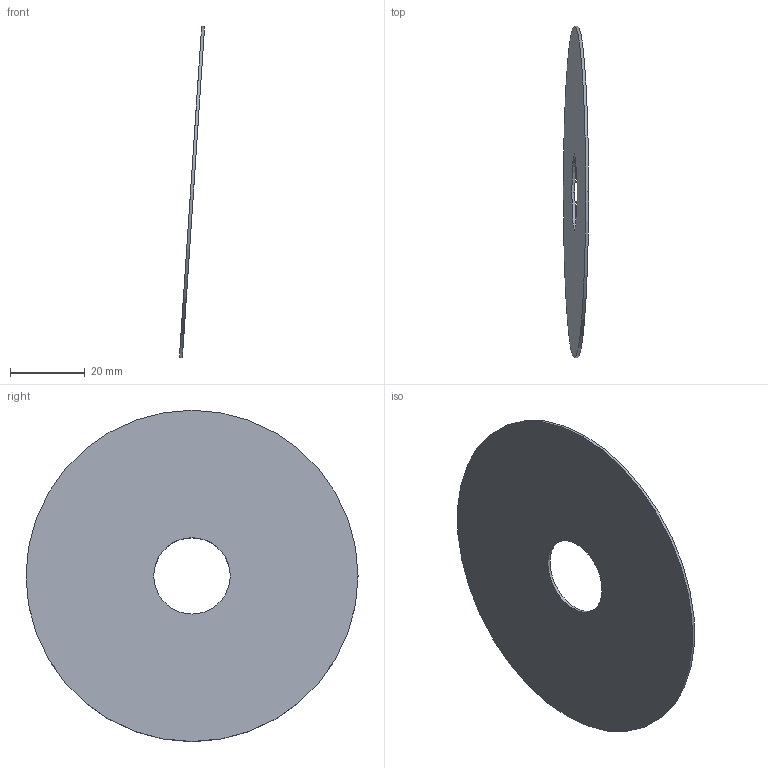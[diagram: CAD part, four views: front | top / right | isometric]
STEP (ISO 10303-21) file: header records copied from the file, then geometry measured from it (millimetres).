
FILE_DESCRIPTION (( 'STEP AP203' ), '1' );
FILE_NAME ('Plaque repérage angulaire_4_Défaut_sldprt.STEP', '2018-04-06T14:28:54', ( '' ), ( '' ), 'SwSTEP 2.0', 'SolidWorks 2013', '' );
FILE_SCHEMA (( 'CONFIG_CONTROL_DESIGN' ));
Length unit declared in the file: millimetre
Products named in the file (1): Plaque repérage angulaire_4_Défaut_sldprt
Bounding box: 6.77 x 89 x 88.85 mm (x, y, z)
Volume: 4712.9 mm3; surface area: 12057.4 mm2
Topology: 1 solids, 1 shells, 6 faces, 12 edges, 8 vertices
Faces by surface type: cylinder 4, plane 2
Entity records: 245 total; most frequent: DIRECTION 34, CARTESIAN_POINT 27, ORIENTED_EDGE 24, AXIS2_PLACEMENT_3D 15, EDGE_CURVE 12, PERSON_AND_ORGANIZATION 8, CIRCLE 8, EDGE_LOOP 8
